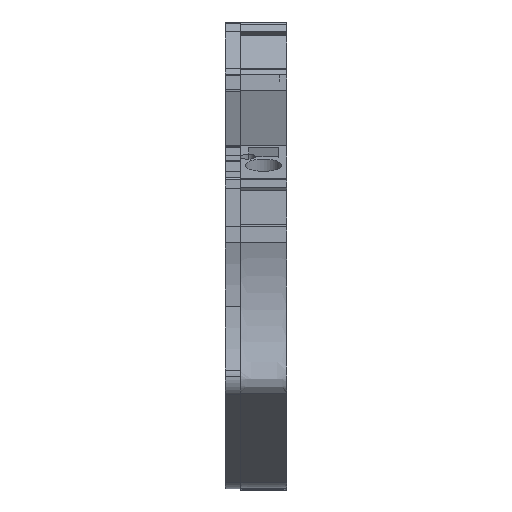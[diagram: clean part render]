
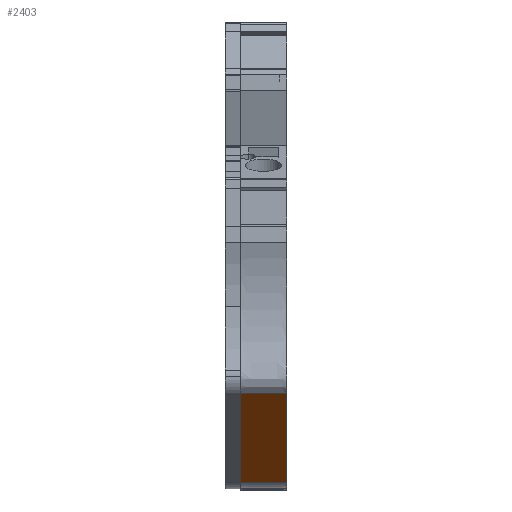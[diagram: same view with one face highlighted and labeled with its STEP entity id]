
A CAD part, left-side view. The second image highlights one B-rep face of the part: STEP entity #2403.
In plain terms, the highlighted planar face has unit normal (-0.567, 0, -0.824).
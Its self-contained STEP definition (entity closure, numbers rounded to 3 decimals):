
#2403=ADVANCED_FACE('',(#37177),#37179,.T.);
#37177=FACE_BOUND('',#37178,.T.);
#37178=EDGE_LOOP('',(#63651,#63652,#63653,#63654));
#37179=PLANE('',#37180);
#37180=AXIS2_PLACEMENT_3D('',#37181,#37182,#37183);
#37181=CARTESIAN_POINT('',(-35.247,-3.,-22.78));
#37182=DIRECTION('',(-0.567,0.,-0.824));
#37183=DIRECTION('',(-0.824,0.,0.567));
#63651=ORIENTED_EDGE('',*,*,#92625,.T.);
#63652=ORIENTED_EDGE('',*,*,#92718,.T.);
#63653=ORIENTED_EDGE('',*,*,#92415,.F.);
#63654=ORIENTED_EDGE('',*,*,#92717,.F.);
#92415=EDGE_CURVE('',#103703,#103705,#103706,.T.);
#92625=EDGE_CURVE('',#104121,#104119,#104122,.T.);
#92717=EDGE_CURVE('',#104121,#103703,#104299,.T.);
#92718=EDGE_CURVE('',#104119,#103705,#104300,.T.);
#103703=VERTEX_POINT('',#127329);
#103705=VERTEX_POINT('',#127369);
#103706=LINE('',#127370,#127371);
#104119=VERTEX_POINT('',#132231);
#104121=VERTEX_POINT('',#132362);
#104122=LINE('',#132363,#132364);
#104299=LINE('',#134629,#134630);
#104300=LINE('',#134632,#134633);
#127329=CARTESIAN_POINT('',(-35.247,3.2,-22.78));
#127369=CARTESIAN_POINT('',(-52.493,3.2,-10.902));
#127370=CARTESIAN_POINT('',(-35.247,3.2,-22.78));
#127371=VECTOR('',#127372,1.);
#127372=DIRECTION('',(-0.824,0.,0.567));
#132231=CARTESIAN_POINT('',(-52.493,-3.,-10.902));
#132362=CARTESIAN_POINT('',(-35.247,-3.,-22.78));
#132363=CARTESIAN_POINT('',(-35.247,-3.,-22.78));
#132364=VECTOR('',#132365,1.);
#132365=DIRECTION('',(-0.824,0.,0.567));
#134629=CARTESIAN_POINT('',(-35.247,-3.,-22.78));
#134630=VECTOR('',#134631,1.);
#134631=DIRECTION('',(0.,1.,0.));
#134632=CARTESIAN_POINT('',(-52.493,-3.,-10.902));
#134633=VECTOR('',#134634,1.);
#134634=DIRECTION('',(0.,1.,0.));
